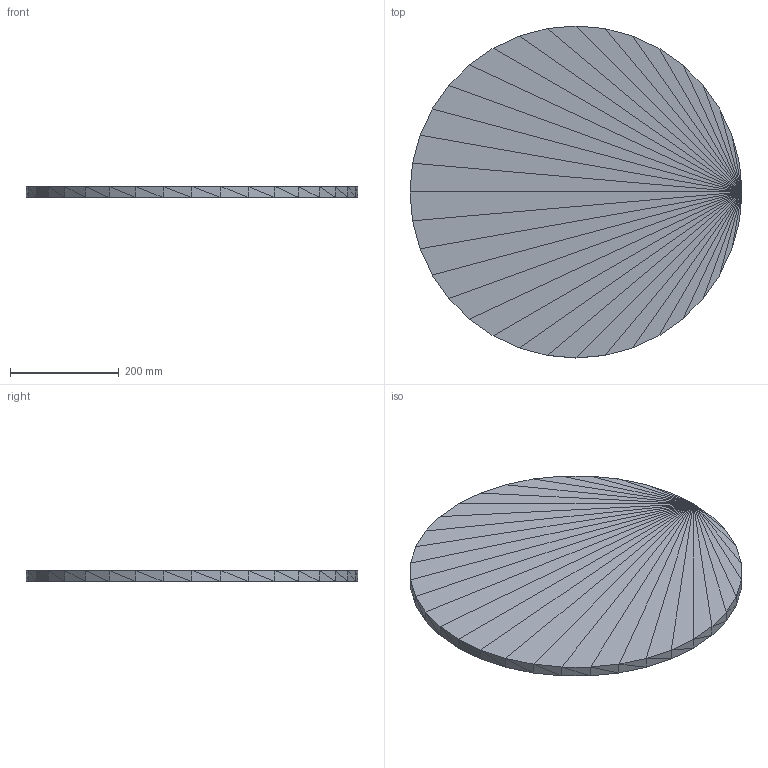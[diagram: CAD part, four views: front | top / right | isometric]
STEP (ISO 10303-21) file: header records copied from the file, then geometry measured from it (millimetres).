
FILE_DESCRIPTION(('ISINAC STEP AP214'),'2;1');
FILE_NAME('ISINAC_CIR.610_20mm_ADHESIVO','2026-05-03T10:49:19',('ISINAC'),('www.isinac.com'),'ISINAC BIM Generator 1.0','','');
FILE_SCHEMA(('AUTOMOTIVE_DESIGN'));
Length unit declared in the file: millimetre
Products named in the file (1): ISINAC_CIR.610_20mm_ADHESIVO
Bounding box: 610 x 610 x 20 mm (x, y, z)
Surface area: 619809.1 mm2 (no closed solid volume)
Topology: 0 solids, 140 shells, 140 faces, 420 edges, 420 vertices
Faces by surface type: plane 140
Entity records: 1553 total; most frequent: CARTESIAN_POINT 560, DIRECTION 280, POLY_LOOP 140, FACE_OUTER_BOUND 140, AXIS2_PLACEMENT_3D 140, PLANE 140, FACE_SURFACE 140, CLOSED_SHELL 1
